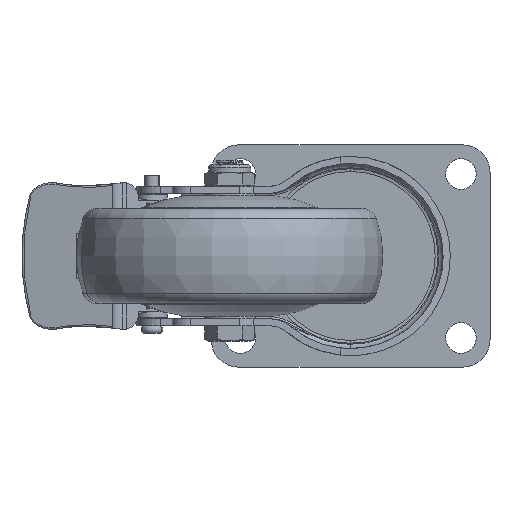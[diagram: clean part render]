
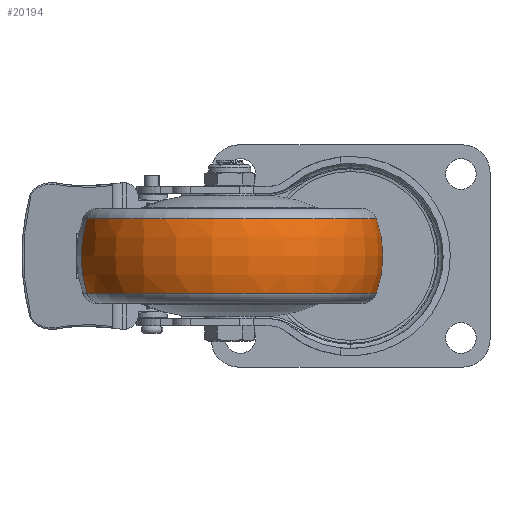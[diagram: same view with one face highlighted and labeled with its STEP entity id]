
A CAD part, front view. The second image highlights one B-rep face of the part: STEP entity #20194.
In plain terms, the highlighted toroidal (fillet/blend) face has major radius 12 mm and minor radius 38 mm.
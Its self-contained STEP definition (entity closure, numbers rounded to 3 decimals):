
#1123 = DIRECTION ( 'NONE',  ( 0., 0., -1. ) ) ;
#2612 = DIRECTION ( 'NONE',  ( 0., -1., 0. ) ) ;
#3407 = ORIENTED_EDGE ( 'NONE', *, *, #4036, .F. ) ;
#3719 = DIRECTION ( 'NONE',  ( 0., 1., 0. ) ) ;
#4036 = EDGE_CURVE ( 'NONE', #9355, #13759, #13715, .T. ) ;
#4500 = DIRECTION ( 'NONE',  ( -1., 0., 0. ) ) ;
#5662 = VERTEX_POINT ( 'NONE', #13611 ) ;
#6236 = DIRECTION ( 'NONE',  ( 0., 0., 1. ) ) ;
#6283 = EDGE_CURVE ( 'NONE', #5662, #13759, #26329, .T. ) ;
#7098 = AXIS2_PLACEMENT_3D ( 'NONE', #18270, #3719, #14243 ) ;
#7218 = TOROIDAL_SURFACE ( 'NONE', #8080, 12., 38. ) ;
#7220 = DIRECTION ( 'NONE',  ( 0., 0., 1. ) ) ;
#8080 = AXIS2_PLACEMENT_3D ( 'NONE', #14621, #4500, #12713 ) ;
#9355 = VERTEX_POINT ( 'NONE', #26023 ) ;
#10243 = AXIS2_PLACEMENT_3D ( 'NONE', #16216, #12035, #6236 ) ;
#10831 = CARTESIAN_POINT ( 'NONE',  ( 0., 0., 12. ) ) ;
#11131 = ORIENTED_EDGE ( 'NONE', *, *, #18058, .T. ) ;
#12035 = DIRECTION ( 'NONE',  ( -1., 0., 0. ) ) ;
#12713 = DIRECTION ( 'NONE',  ( 0., 0., 1. ) ) ;
#12856 = ORIENTED_EDGE ( 'NONE', *, *, #24623, .F. ) ;
#13611 = CARTESIAN_POINT ( 'NONE',  ( 12.091, 0., 48.025 ) ) ;
#13715 = CIRCLE ( 'NONE', #10243, 48.025 ) ;
#13759 = VERTEX_POINT ( 'NONE', #26361 ) ;
#13991 = CIRCLE ( 'NONE', #7098, 38. ) ;
#14243 = DIRECTION ( 'NONE',  ( -1., 0., 0. ) ) ;
#14621 = CARTESIAN_POINT ( 'NONE',  ( 0., 0., 0. ) ) ;
#15291 = ORIENTED_EDGE ( 'NONE', *, *, #6283, .T. ) ;
#15671 = CARTESIAN_POINT ( 'NONE',  ( 12.091, 0., -48.025 ) ) ;
#15956 = AXIS2_PLACEMENT_3D ( 'NONE', #19896, #25669, #7220 ) ;
#16216 = CARTESIAN_POINT ( 'NONE',  ( -12.091, 0., 0. ) ) ;
#16636 = FACE_OUTER_BOUND ( 'NONE', #23502, .T. ) ;
#18058 = EDGE_CURVE ( 'NONE', #21649, #5662, #26254, .T. ) ;
#18270 = CARTESIAN_POINT ( 'NONE',  ( 0., 0., -12. ) ) ;
#19896 = CARTESIAN_POINT ( 'NONE',  ( 12.091, 0., 0. ) ) ;
#20194 = ADVANCED_FACE ( 'NONE', ( #16636 ), #7218, .T. ) ;
#21649 = VERTEX_POINT ( 'NONE', #15671 ) ;
#23502 = EDGE_LOOP ( 'NONE', ( #12856, #11131, #15291, #3407 ) ) ;
#24623 = EDGE_CURVE ( 'NONE', #21649, #9355, #13991, .T. ) ;
#25030 = AXIS2_PLACEMENT_3D ( 'NONE', #10831, #2612, #1123 ) ;
#25669 = DIRECTION ( 'NONE',  ( -1., 0., 0. ) ) ;
#26023 = CARTESIAN_POINT ( 'NONE',  ( -12.091, 0., -48.025 ) ) ;
#26254 = CIRCLE ( 'NONE', #15956, 48.025 ) ;
#26329 = CIRCLE ( 'NONE', #25030, 38. ) ;
#26361 = CARTESIAN_POINT ( 'NONE',  ( -12.091, 0., 48.025 ) ) ;
